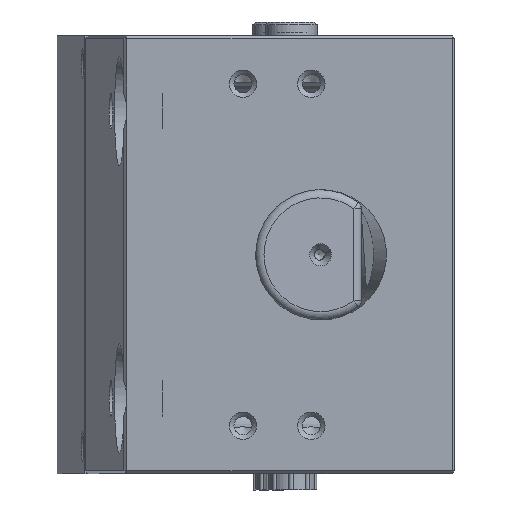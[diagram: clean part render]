
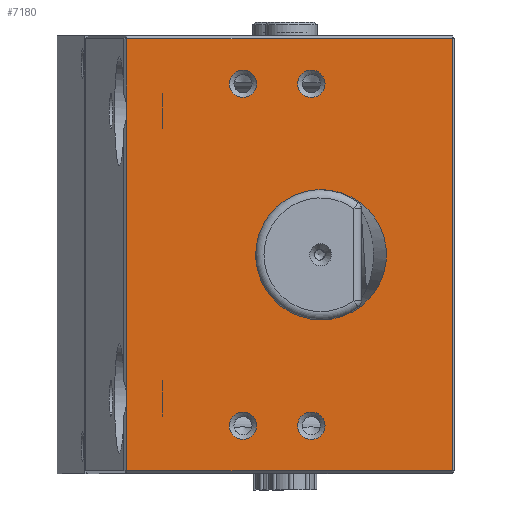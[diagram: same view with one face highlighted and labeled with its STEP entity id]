
A CAD part, left-side view. The second image highlights one B-rep face of the part: STEP entity #7180.
In plain terms, the highlighted planar face has unit normal (-1, 0, 0).
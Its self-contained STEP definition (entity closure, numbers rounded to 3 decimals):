
#6525=CARTESIAN_POINT('',(0.,28.55,-57.5));
#6526=VERTEX_POINT('',#6525);
#6527=CARTESIAN_POINT('',(0.,28.55,-62.5));
#6528=DIRECTION('',(1.0,0.0,0.0));
#6529=DIRECTION('',(0.0,0.0,1.0));
#6530=AXIS2_PLACEMENT_3D('',#6527,#6528,#6529);
#6531=CIRCLE('',#6530,5.0);
#6532=EDGE_CURVE('',#6526,#6526,#6531,.T.);
#6612=CARTESIAN_POINT('',(0.,28.55,67.5));
#6613=VERTEX_POINT('',#6612);
#6614=CARTESIAN_POINT('',(0.,28.55,62.5));
#6615=DIRECTION('',(1.0,0.0,0.0));
#6616=DIRECTION('',(0.0,0.0,1.0));
#6617=AXIS2_PLACEMENT_3D('',#6614,#6615,#6616);
#6618=CIRCLE('',#6617,5.0);
#6619=EDGE_CURVE('',#6613,#6613,#6618,.T.);
#6700=CARTESIAN_POINT('',(0.,3.55,-57.5));
#6701=VERTEX_POINT('',#6700);
#6702=CARTESIAN_POINT('',(0.,3.55,-62.5));
#6703=DIRECTION('',(1.0,0.0,0.0));
#6704=DIRECTION('',(0.0,0.0,1.0));
#6705=AXIS2_PLACEMENT_3D('',#6702,#6703,#6704);
#6706=CIRCLE('',#6705,5.0);
#6707=EDGE_CURVE('',#6701,#6701,#6706,.T.);
#6787=CARTESIAN_POINT('',(0.,3.55,67.5));
#6788=VERTEX_POINT('',#6787);
#6789=CARTESIAN_POINT('',(0.,3.55,62.5));
#6790=DIRECTION('',(1.0,0.0,0.0));
#6791=DIRECTION('',(0.0,0.0,1.0));
#6792=AXIS2_PLACEMENT_3D('',#6789,#6790,#6791);
#6793=CIRCLE('',#6792,5.0);
#6794=EDGE_CURVE('',#6788,#6788,#6793,.T.);
#6827=CARTESIAN_POINT('',(0.,23.906,0.));
#6828=VERTEX_POINT('',#6827);
#6829=CARTESIAN_POINT('',(0.0,0.,0.0));
#6830=DIRECTION('',(1.0,0.0,0.0));
#6831=DIRECTION('',(0.0,-1.0,0.0));
#6832=AXIS2_PLACEMENT_3D('',#6829,#6830,#6831);
#6833=ELLIPSE('',#6832,23.906,23.815);
#6834=EDGE_CURVE('',#6828,#6828,#6833,.T.);
#7082=CARTESIAN_POINT('',(0.,-48.95,0.0));
#7083=DIRECTION('',(-1.0,0.0,0.0));
#7084=DIRECTION('',(0.0,0.0,1.0));
#7085=AXIS2_PLACEMENT_3D('',#7082,#7083,#7084);
#7086=PLANE('',#7085);
#7087=CARTESIAN_POINT('',(0.,70.979,-79.0));
#7088=VERTEX_POINT('',#7087);
#7089=CARTESIAN_POINT('',(0.,70.979,-52.5));
#7090=VERTEX_POINT('',#7089);
#7091=CARTESIAN_POINT('',(0.,70.979,-79.0));
#7092=DIRECTION('',(0.0,0.0,1.0));
#7093=VECTOR('',#7092,26.5);
#7094=LINE('',#7091,#7093);
#7095=EDGE_CURVE('',#7088,#7090,#7094,.T.);
#7096=ORIENTED_EDGE('',*,*,#7095,.F.);
#7097=CARTESIAN_POINT('',(0.,-47.95,-79.0));
#7098=VERTEX_POINT('',#7097);
#7099=CARTESIAN_POINT('',(0.,-47.95,-79.0));
#7100=DIRECTION('',(0.0,1.0,0.0));
#7101=VECTOR('',#7100,118.929);
#7102=LINE('',#7099,#7101);
#7103=EDGE_CURVE('',#7098,#7088,#7102,.T.);
#7104=ORIENTED_EDGE('',*,*,#7103,.F.);
#7105=CARTESIAN_POINT('',(0.,-47.95,79.0));
#7106=VERTEX_POINT('',#7105);
#7107=CARTESIAN_POINT('',(0.,-47.95,79.0));
#7108=DIRECTION('',(0.0,0.0,-1.0));
#7109=VECTOR('',#7108,158.0);
#7110=LINE('',#7107,#7109);
#7111=EDGE_CURVE('',#7106,#7098,#7110,.T.);
#7112=ORIENTED_EDGE('',*,*,#7111,.F.);
#7113=CARTESIAN_POINT('',(0.,70.979,79.0));
#7114=VERTEX_POINT('',#7113);
#7115=CARTESIAN_POINT('',(0.,70.979,79.0));
#7116=DIRECTION('',(0.0,-1.0,0.0));
#7117=VECTOR('',#7116,118.929);
#7118=LINE('',#7115,#7117);
#7119=EDGE_CURVE('',#7114,#7106,#7118,.T.);
#7120=ORIENTED_EDGE('',*,*,#7119,.F.);
#7121=CARTESIAN_POINT('',(0.,70.979,52.5));
#7122=VERTEX_POINT('',#7121);
#7123=CARTESIAN_POINT('',(0.,70.979,52.5));
#7124=DIRECTION('',(0.0,0.0,1.0));
#7125=VECTOR('',#7124,26.5);
#7126=LINE('',#7123,#7125);
#7127=EDGE_CURVE('',#7122,#7114,#7126,.T.);
#7128=ORIENTED_EDGE('',*,*,#7127,.F.);
#7129=CARTESIAN_POINT('',(0.0,58.,52.5));
#7130=VERTEX_POINT('',#7129);
#7131=CARTESIAN_POINT('',(0.,58.0,52.5));
#7132=DIRECTION('',(0.0,1.0,0.0));
#7133=VECTOR('',#7132,12.979);
#7134=LINE('',#7131,#7133);
#7135=EDGE_CURVE('',#7130,#7122,#7134,.T.);
#7136=ORIENTED_EDGE('',*,*,#7135,.F.);
#7137=CARTESIAN_POINT('',(0.,58.0,52.5));
#7138=DIRECTION('',(0.0,1.0,0.0));
#7139=VECTOR('',#7138,12.979);
#7140=LINE('',#7137,#7139);
#7141=EDGE_CURVE('',#7130,#7122,#7140,.T.);
#7142=ORIENTED_EDGE('',*,*,#7141,.T.);
#7143=CARTESIAN_POINT('',(0.,70.979,-52.5));
#7144=DIRECTION('',(0.0,0.0,1.0));
#7145=VECTOR('',#7144,105.0);
#7146=LINE('',#7143,#7145);
#7147=EDGE_CURVE('',#7090,#7122,#7146,.T.);
#7148=ORIENTED_EDGE('',*,*,#7147,.F.);
#7149=CARTESIAN_POINT('',(0.,58.,-52.5));
#7150=VERTEX_POINT('',#7149);
#7151=CARTESIAN_POINT('',(0.,58.0,-52.5));
#7152=DIRECTION('',(0.0,1.0,0.0));
#7153=VECTOR('',#7152,12.979);
#7154=LINE('',#7151,#7153);
#7155=EDGE_CURVE('',#7150,#7090,#7154,.T.);
#7156=ORIENTED_EDGE('',*,*,#7155,.F.);
#7157=CARTESIAN_POINT('',(0.,58.0,-52.5));
#7158=DIRECTION('',(0.0,1.0,0.0));
#7159=VECTOR('',#7158,12.979);
#7160=LINE('',#7157,#7159);
#7161=EDGE_CURVE('',#7150,#7090,#7160,.T.);
#7162=ORIENTED_EDGE('',*,*,#7161,.T.);
#7163=EDGE_LOOP('',(#7096,#7104,#7112,#7120,#7128,#7136,#7142,#7148,#7156,#7162));
#7164=FACE_OUTER_BOUND('',#7163,.T.);
#7165=ORIENTED_EDGE('',*,*,#6834,.T.);
#7166=EDGE_LOOP('',(#7165));
#7167=FACE_BOUND('',#7166,.T.);
#7168=ORIENTED_EDGE('',*,*,#6532,.T.);
#7169=EDGE_LOOP('',(#7168));
#7170=FACE_BOUND('',#7169,.T.);
#7171=ORIENTED_EDGE('',*,*,#6619,.T.);
#7172=EDGE_LOOP('',(#7171));
#7173=FACE_BOUND('',#7172,.T.);
#7174=ORIENTED_EDGE('',*,*,#6707,.T.);
#7175=EDGE_LOOP('',(#7174));
#7176=FACE_BOUND('',#7175,.T.);
#7177=ORIENTED_EDGE('',*,*,#6794,.T.);
#7178=EDGE_LOOP('',(#7177));
#7179=FACE_BOUND('',#7178,.T.);
#7180=ADVANCED_FACE('',(#7164,#7167,#7170,#7173,#7176,#7179),#7086,.T.);
